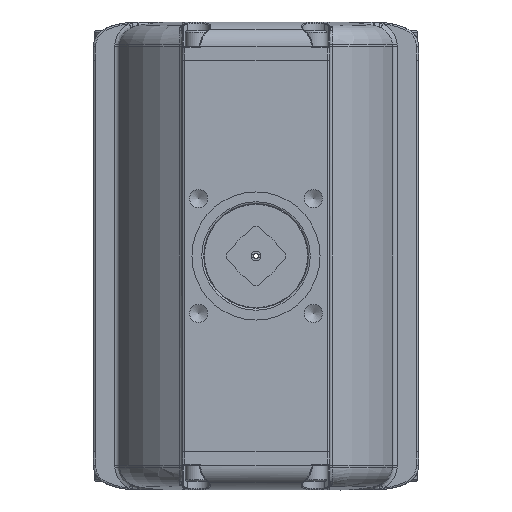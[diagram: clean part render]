
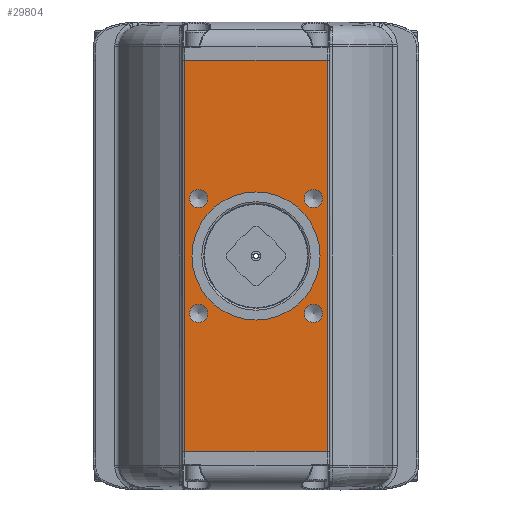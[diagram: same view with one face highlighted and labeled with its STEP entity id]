
A CAD part, front view. The second image highlights one B-rep face of the part: STEP entity #29804.
In plain terms, the highlighted planar face has unit normal (0, -1, 0).
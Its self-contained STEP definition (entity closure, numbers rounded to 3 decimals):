
#2578=FACE_BOUND('',#6422,.T.);
#2579=FACE_BOUND('',#6423,.T.);
#2580=FACE_BOUND('',#6424,.T.);
#2581=FACE_BOUND('',#6425,.T.);
#2582=FACE_BOUND('',#6426,.T.);
#2907=PLANE('',#32805);
#4603=FACE_OUTER_BOUND('',#6421,.T.);
#6421=EDGE_LOOP('',(#25319,#25320,#25321,#25322));
#6422=EDGE_LOOP('',(#25323));
#6423=EDGE_LOOP('',(#25324));
#6424=EDGE_LOOP('',(#25325));
#6425=EDGE_LOOP('',(#25326));
#6426=EDGE_LOOP('',(#25327));
#8121=CIRCLE('',#32758,9.188);
#8123=CIRCLE('',#32762,9.188);
#8125=CIRCLE('',#32766,9.188);
#8127=CIRCLE('',#32770,9.188);
#8128=CIRCLE('',#32772,65.);
#8796=LINE('',#64080,#9872);
#9085=LINE('',#81718,#10161);
#9128=LINE('',#82065,#10204);
#9130=LINE('',#82068,#10206);
#9872=VECTOR('',#37521,10.);
#10161=VECTOR('',#39500,10.);
#10204=VECTOR('',#39671,10.);
#10206=VECTOR('',#39675,10.);
#12012=VERTEX_POINT('',#64077);
#12013=VERTEX_POINT('',#64079);
#12798=VERTEX_POINT('',#81715);
#12799=VERTEX_POINT('',#81717);
#12812=VERTEX_POINT('',#81825);
#12815=VERTEX_POINT('',#81834);
#12818=VERTEX_POINT('',#81843);
#12821=VERTEX_POINT('',#81852);
#12822=VERTEX_POINT('',#81856);
#15694=EDGE_CURVE('',#12013,#12012,#8796,.T.);
#16997=EDGE_CURVE('',#12799,#12798,#9085,.T.);
#17016=EDGE_CURVE('',#12812,#12812,#8121,.T.);
#17020=EDGE_CURVE('',#12815,#12815,#8123,.T.);
#17024=EDGE_CURVE('',#12818,#12818,#8125,.T.);
#17028=EDGE_CURVE('',#12821,#12821,#8127,.T.);
#17030=EDGE_CURVE('',#12822,#12822,#8128,.T.);
#17070=EDGE_CURVE('',#12013,#12798,#9128,.T.);
#17072=EDGE_CURVE('',#12799,#12012,#9130,.T.);
#25319=ORIENTED_EDGE('',*,*,#17070,.F.);
#25320=ORIENTED_EDGE('',*,*,#15694,.T.);
#25321=ORIENTED_EDGE('',*,*,#17072,.F.);
#25322=ORIENTED_EDGE('',*,*,#16997,.T.);
#25323=ORIENTED_EDGE('',*,*,#17016,.T.);
#25324=ORIENTED_EDGE('',*,*,#17020,.T.);
#25325=ORIENTED_EDGE('',*,*,#17024,.T.);
#25326=ORIENTED_EDGE('',*,*,#17028,.T.);
#25327=ORIENTED_EDGE('',*,*,#17030,.T.);
#29804=ADVANCED_FACE('',(#4603,#2578,#2579,#2580,#2581,#2582),#2907,.T.);
#32758=AXIS2_PLACEMENT_3D('',#81826,#39546,#39547);
#32762=AXIS2_PLACEMENT_3D('',#81835,#39556,#39557);
#32766=AXIS2_PLACEMENT_3D('',#81844,#39566,#39567);
#32770=AXIS2_PLACEMENT_3D('',#81853,#39576,#39577);
#32772=AXIS2_PLACEMENT_3D('',#81857,#39581,#39582);
#32805=AXIS2_PLACEMENT_3D('',#82067,#39673,#39674);
#37521=DIRECTION('',(-1.,0.,0.));
#39500=DIRECTION('',(1.,0.,0.));
#39546=DIRECTION('center_axis',(0.,1.,0.));
#39547=DIRECTION('ref_axis',(1.,0.,0.));
#39556=DIRECTION('center_axis',(0.,1.,0.));
#39557=DIRECTION('ref_axis',(1.,0.,0.));
#39566=DIRECTION('center_axis',(0.,1.,0.));
#39567=DIRECTION('ref_axis',(1.,0.,0.));
#39576=DIRECTION('center_axis',(0.,1.,0.));
#39577=DIRECTION('ref_axis',(1.,0.,0.));
#39581=DIRECTION('center_axis',(0.,1.,0.));
#39582=DIRECTION('ref_axis',(0.,0.,1.));
#39671=DIRECTION('',(0.,0.,-1.));
#39673=DIRECTION('center_axis',(0.,-1.,0.));
#39674=DIRECTION('ref_axis',(0.,0.,-1.));
#39675=DIRECTION('',(0.,0.,1.));
#64077=CARTESIAN_POINT('',(-72.5,-175.,198.5));
#64079=CARTESIAN_POINT('',(72.5,-175.,198.5));
#64080=CARTESIAN_POINT('',(-75.,-175.,198.5));
#81715=CARTESIAN_POINT('',(72.5,-175.,-198.5));
#81717=CARTESIAN_POINT('',(-72.5,-175.,-198.5));
#81718=CARTESIAN_POINT('',(-75.,-175.,-198.5));
#81825=CARTESIAN_POINT('',(-67.524,-175.,58.336));
#81826=CARTESIAN_POINT('Origin',(-58.336,-175.,58.336));
#81834=CARTESIAN_POINT('',(49.148,-175.,-58.336));
#81835=CARTESIAN_POINT('Origin',(58.336,-175.,-58.336));
#81843=CARTESIAN_POINT('',(-67.524,-175.,-58.336));
#81844=CARTESIAN_POINT('Origin',(-58.336,-175.,-58.336));
#81852=CARTESIAN_POINT('',(49.148,-175.,58.336));
#81853=CARTESIAN_POINT('Origin',(58.336,-175.,58.336));
#81856=CARTESIAN_POINT('',(0.,-175.,-65.));
#81857=CARTESIAN_POINT('Origin',(0.,-175.,0.));
#82065=CARTESIAN_POINT('',(72.5,-175.,0.));
#82067=CARTESIAN_POINT('Origin',(75.,-175.,0.));
#82068=CARTESIAN_POINT('',(-72.5,-175.,0.));
